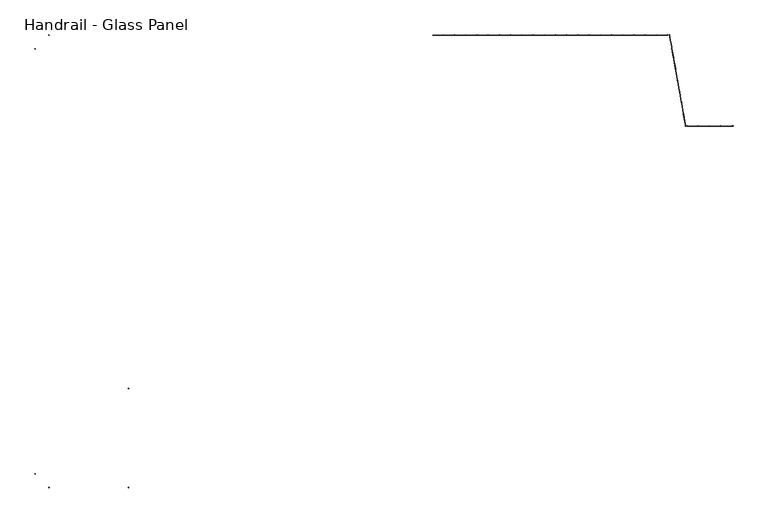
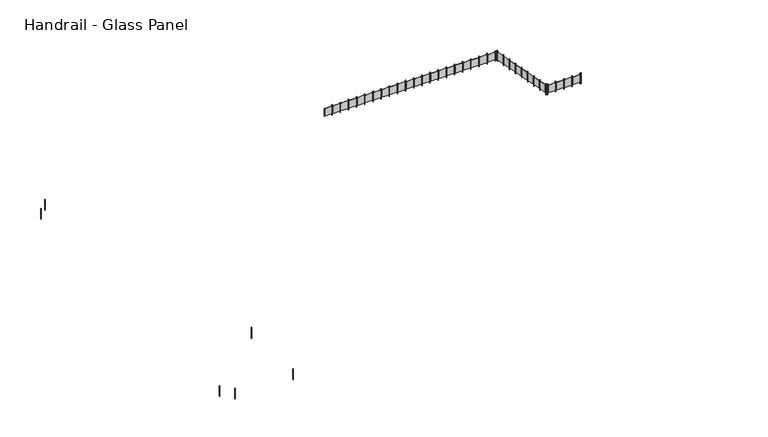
"""IFC4 building model written with IfcOpenShell, lengths in millimetres: railing geometry, Handrail - Glass Panel."""

from ifc_helpers import new_model, si_unit, point, frame, frame_2d, origin, place, context, project, spatial, polyline, circle_curve, trimmed, segment, composite_curve, outline, extrude, source, transform, mapped, element, save


def handrail_glass_panel_4ead3802(model_context):
    return source(origin(), model_context, "Body", "SweptSolid", [
        extrude(outline(polyline([(3415.9280001, 10516.4351347), (2857.1280001, 10516.4351347), (2857.1280001, 10522.7851347), (3415.9280001, 10522.7851347), (3415.9280001, 10516.4351347)])), frame((0.0, 0.0, 8227.0), z_axis=(0.0, 0.0, 1.0), x_axis=(1.0, 0.0, 0.0)), (0.0, 0.0, 1.0), 635.0),
        extrude(outline(polyline([(3463.5530001, 10532.3101347), (3463.5530001, 10513.2601347), (3444.5030001, 10513.2601347), (3444.5030001, 10532.3101347), (3463.5530001, 10532.3101347)])), frame((0.0, 0.0, 8100.0), z_axis=(0.0, 0.0, 1.0), x_axis=(1.0, 0.0, 0.0)), (0.0, 0.0, 1.0), 863.6),
        extrude(outline(polyline([(4050.9280001, 10516.4351347), (3492.1280001, 10516.4351347), (3492.1280001, 10522.7851347), (4050.9280001, 10522.7851347), (4050.9280001, 10516.4351347)])), frame((0.0, 0.0, 8227.0), z_axis=(0.0, 0.0, 1.0), x_axis=(1.0, 0.0, 0.0)), (0.0, 0.0, 1.0), 635.0),
        extrude(outline(polyline([(4098.5530001, 10532.3101347), (4098.5530001, 10513.2601347), (4079.5030001, 10513.2601347), (4079.5030001, 10532.3101347), (4098.5530001, 10532.3101347)])), frame((0.0, 0.0, 8100.0), z_axis=(0.0, 0.0, 1.0), x_axis=(1.0, 0.0, 0.0)), (0.0, 0.0, 1.0), 863.6),
        extrude(outline(polyline([(4685.9280001, 10516.4351347), (4127.1280001, 10516.4351347), (4127.1280001, 10522.7851347), (4685.9280001, 10522.7851347), (4685.9280001, 10516.4351347)])), frame((0.0, 0.0, 8227.0), z_axis=(0.0, 0.0, 1.0), x_axis=(1.0, 0.0, 0.0)), (0.0, 0.0, 1.0), 635.0),
        extrude(outline(polyline([(4733.5530001, 10532.3101347), (4733.5530001, 10513.2601347), (4714.5030001, 10513.2601347), (4714.5030001, 10532.3101347), (4733.5530001, 10532.3101347)])), frame((0.0, 0.0, 8100.0), z_axis=(0.0, 0.0, 1.0), x_axis=(1.0, 0.0, 0.0)), (0.0, 0.0, 1.0), 863.6),
        extrude(outline(polyline([(5320.9280001, 10516.4351347), (4762.1280001, 10516.4351347), (4762.1280001, 10522.7851347), (5320.9280001, 10522.7851347), (5320.9280001, 10516.4351347)])), frame((0.0, 0.0, 8227.0), z_axis=(0.0, 0.0, 1.0), x_axis=(1.0, 0.0, 0.0)), (0.0, 0.0, 1.0), 635.0),
        extrude(outline(polyline([(5368.5530001, 10532.3101347), (5368.5530001, 10513.2601347), (5349.5030001, 10513.2601347), (5349.5030001, 10532.3101347), (5368.5530001, 10532.3101347)])), frame((0.0, 0.0, 8100.0), z_axis=(0.0, 0.0, 1.0), x_axis=(1.0, 0.0, 0.0)), (0.0, 0.0, 1.0), 863.6),
        extrude(outline(polyline([(5955.9280001, 10516.4351347), (5397.1280001, 10516.4351347), (5397.1280001, 10522.7851347), (5955.9280001, 10522.7851347), (5955.9280001, 10516.4351347)])), frame((0.0, 0.0, 8227.0), z_axis=(0.0, 0.0, 1.0), x_axis=(1.0, 0.0, 0.0)), (0.0, 0.0, 1.0), 635.0),
        extrude(outline(polyline([(6003.5530001, 10532.3101347), (6003.5530001, 10513.2601347), (5984.5030001, 10513.2601347), (5984.5030001, 10532.3101347), (6003.5530001, 10532.3101347)])), frame((0.0, 0.0, 8100.0), z_axis=(0.0, 0.0, 1.0), x_axis=(1.0, 0.0, 0.0)), (0.0, 0.0, 1.0), 863.6),
        extrude(outline(polyline([(6590.9280001, 10516.4351347), (6032.1280001, 10516.4351347), (6032.1280001, 10522.7851347), (6590.9280001, 10522.7851347), (6590.9280001, 10516.4351347)])), frame((0.0, 0.0, 8227.0), z_axis=(0.0, 0.0, 1.0), x_axis=(1.0, 0.0, 0.0)), (0.0, 0.0, 1.0), 635.0),
        extrude(outline(polyline([(6638.5530001, 10532.3101347), (6638.5530001, 10513.2601347), (6619.5030001, 10513.2601347), (6619.5030001, 10532.3101347), (6638.5530001, 10532.3101347)])), frame((0.0, 0.0, 8100.0), z_axis=(0.0, 0.0, 1.0), x_axis=(1.0, 0.0, 0.0)), (0.0, 0.0, 1.0), 863.6),
        extrude(outline(polyline([(7225.9280001, 10516.4351347), (6667.1280001, 10516.4351347), (6667.1280001, 10522.7851347), (7225.9280001, 10522.7851347), (7225.9280001, 10516.4351347)])), frame((0.0, 0.0, 8227.0), z_axis=(0.0, 0.0, 1.0), x_axis=(1.0, 0.0, 0.0)), (0.0, 0.0, 1.0), 635.0),
        extrude(outline(polyline([(7273.5530001, 10532.3101347), (7273.5530001, 10513.2601347), (7254.5030001, 10513.2601347), (7254.5030001, 10532.3101347), (7273.5530001, 10532.3101347)])), frame((0.0, 0.0, 8100.0), z_axis=(0.0, 0.0, 1.0), x_axis=(1.0, 0.0, 0.0)), (0.0, 0.0, 1.0), 863.6),
        extrude(outline(polyline([(7860.9280001, 10516.4351347), (7302.1280001, 10516.4351347), (7302.1280001, 10522.7851347), (7860.9280001, 10522.7851347), (7860.9280001, 10516.4351347)])), frame((0.0, 0.0, 8227.0), z_axis=(0.0, 0.0, 1.0), x_axis=(1.0, 0.0, 0.0)), (0.0, 0.0, 1.0), 635.0),
        extrude(outline(polyline([(7908.5530001, 10532.3101347), (7908.5530001, 10513.2601347), (7889.5030001, 10513.2601347), (7889.5030001, 10532.3101347), (7908.5530001, 10532.3101347)])), frame((0.0, 0.0, 8100.0), z_axis=(0.0, 0.0, 1.0), x_axis=(1.0, 0.0, 0.0)), (0.0, 0.0, 1.0), 863.6),
        extrude(outline(polyline([(8495.9280001, 10516.4351347), (7937.1280001, 10516.4351347), (7937.1280001, 10522.7851347), (8495.9280001, 10522.7851347), (8495.9280001, 10516.4351347)])), frame((0.0, 0.0, 8227.0), z_axis=(0.0, 0.0, 1.0), x_axis=(1.0, 0.0, 0.0)), (0.0, 0.0, 1.0), 635.0),
        extrude(outline(polyline([(8543.5530001, 10532.3101347), (8543.5530001, 10513.2601347), (8524.5030001, 10513.2601347), (8524.5030001, 10532.3101347), (8543.5530001, 10532.3101347)])), frame((0.0, 0.0, 8100.0), z_axis=(0.0, 0.0, 1.0), x_axis=(1.0, 0.0, 0.0)), (0.0, 0.0, 1.0), 863.6),
        extrude(outline(polyline([(9130.9280001, 10516.4351347), (8572.1280001, 10516.4351347), (8572.1280001, 10522.7851347), (9130.9280001, 10522.7851347), (9130.9280001, 10516.4351347)])), frame((0.0, 0.0, 8227.0), z_axis=(0.0, 0.0, 1.0), x_axis=(1.0, 0.0, 0.0)), (0.0, 0.0, 1.0), 635.0),
        extrude(outline(polyline([(9178.5530001, 10532.3101347), (9178.5530001, 10513.2601347), (9159.5030001, 10513.2601347), (9159.5030001, 10532.3101347), (9178.5530001, 10532.3101347)])), frame((0.0, 0.0, 8100.0), z_axis=(0.0, 0.0, 1.0), x_axis=(1.0, 0.0, 0.0)), (0.0, 0.0, 1.0), 863.6),
        extrude(outline(polyline([(9765.9280001, 10516.4351347), (9207.1280001, 10516.4351347), (9207.1280001, 10522.7851347), (9765.9280001, 10522.7851347), (9765.9280001, 10516.4351347)])), frame((0.0, 0.0, 8227.0), z_axis=(0.0, 0.0, 1.0), x_axis=(1.0, 0.0, 0.0)), (0.0, 0.0, 1.0), 635.0),
        extrude(outline(polyline([(9813.5530001, 10532.3101347), (9813.5530001, 10513.2601347), (9794.5030001, 10513.2601347), (9794.5030001, 10532.3101347), (9813.5530001, 10532.3101347)])), frame((0.0, 0.0, 8100.0), z_axis=(0.0, 0.0, 1.0), x_axis=(1.0, 0.0, 0.0)), (0.0, 0.0, 1.0), 863.6),
        extrude(outline(polyline([(10400.9280001, 10516.4351347), (9842.1280001, 10516.4351347), (9842.1280001, 10522.7851347), (10400.9280001, 10522.7851347), (10400.9280001, 10516.4351347)])), frame((0.0, 0.0, 8227.0), z_axis=(0.0, 0.0, 1.0), x_axis=(1.0, 0.0, 0.0)), (0.0, 0.0, 1.0), 635.0),
        extrude(outline(polyline([(10448.5530001, 10532.3101347), (10448.5530001, 10513.2601347), (10429.5030001, 10513.2601347), (10429.5030001, 10532.3101347), (10448.5530001, 10532.3101347)])), frame((0.0, 0.0, 8100.0), z_axis=(0.0, 0.0, 1.0), x_axis=(1.0, 0.0, 0.0)), (0.0, 0.0, 1.0), 863.6),
        extrude(outline(polyline([(11035.9280001, 10516.4351347), (10477.1280001, 10516.4351347), (10477.1280001, 10522.7851347), (11035.9280001, 10522.7851347), (11035.9280001, 10516.4351347)])), frame((0.0, 0.0, 8227.0), z_axis=(0.0, 0.0, 1.0), x_axis=(1.0, 0.0, 0.0)), (0.0, 0.0, 1.0), 635.0),
        extrude(outline(polyline([(11083.5530001, 10532.3101347), (11083.5530001, 10513.2601347), (11064.5030001, 10513.2601347), (11064.5030001, 10532.3101347), (11083.5530001, 10532.3101347)])), frame((0.0, 0.0, 8100.0), z_axis=(0.0, 0.0, 1.0), x_axis=(1.0, 0.0, 0.0)), (0.0, 0.0, 1.0), 863.6),
        extrude(outline(polyline([(11670.9280001, 10516.4351347), (11112.1280001, 10516.4351347), (11112.1280001, 10522.7851347), (11670.9280001, 10522.7851347), (11670.9280001, 10516.4351347)])), frame((0.0, 0.0, 8227.0), z_axis=(0.0, 0.0, 1.0), x_axis=(1.0, 0.0, 0.0)), (0.0, 0.0, 1.0), 635.0),
        extrude(outline(polyline([(11718.5530001, 10532.3101347), (11718.5530001, 10513.2601347), (11699.5030001, 10513.2601347), (11699.5030001, 10532.3101347), (11718.5530001, 10532.3101347)])), frame((0.0, 0.0, 8100.0), z_axis=(0.0, 0.0, 1.0), x_axis=(1.0, 0.0, 0.0)), (0.0, 0.0, 1.0), 863.6),
        extrude(outline(polyline([(12305.9280001, 10516.4351347), (11747.1280001, 10516.4351347), (11747.1280001, 10522.7851347), (12305.9280001, 10522.7851347), (12305.9280001, 10516.4351347)])), frame((0.0, 0.0, 8227.0), z_axis=(0.0, 0.0, 1.0), x_axis=(1.0, 0.0, 0.0)), (0.0, 0.0, 1.0), 635.0),
        extrude(outline(polyline([(12353.5530001, 10532.3101347), (12353.5530001, 10513.2601347), (12334.5030001, 10513.2601347), (12334.5030001, 10532.3101347), (12353.5530001, 10532.3101347)])), frame((0.0, 0.0, 8100.0), z_axis=(0.0, 0.0, 1.0), x_axis=(1.0, 0.0, 0.0)), (0.0, 0.0, 1.0), 863.6),
        extrude(outline(polyline([(12940.9280001, 10516.4351347), (12382.1280001, 10516.4351347), (12382.1280001, 10522.7851347), (12940.9280001, 10522.7851347), (12940.9280001, 10516.4351347)])), frame((0.0, 0.0, 8227.0), z_axis=(0.0, 0.0, 1.0), x_axis=(1.0, 0.0, 0.0)), (0.0, 0.0, 1.0), 635.0),
        extrude(outline(polyline([(12988.5530001, 10532.3101347), (12988.5530001, 10513.2601347), (12969.5030001, 10513.2601347), (12969.5030001, 10532.3101347), (12988.5530001, 10532.3101347)])), frame((0.0, 0.0, 8100.0), z_axis=(0.0, 0.0, 1.0), x_axis=(1.0, 0.0, 0.0)), (0.0, 0.0, 1.0), 863.6),
        extrude(outline(polyline([(13575.9280001, 10516.4351347), (13017.1280001, 10516.4351347), (13017.1280001, 10522.7851347), (13575.9280001, 10522.7851347), (13575.9280001, 10516.4351347)])), frame((0.0, 0.0, 8227.0), z_axis=(0.0, 0.0, 1.0), x_axis=(1.0, 0.0, 0.0)), (0.0, 0.0, 1.0), 635.0),
        extrude(outline(polyline([(13623.5530001, 10532.3101347), (13623.5530001, 10513.2601347), (13604.5030001, 10513.2601347), (13604.5030001, 10532.3101347), (13623.5530001, 10532.3101347)])), frame((0.0, 0.0, 8100.0), z_axis=(0.0, 0.0, 1.0), x_axis=(1.0, 0.0, 0.0)), (0.0, 0.0, 1.0), 863.6),
        extrude(outline(polyline([(14210.9280001, 10516.4351347), (13652.1280001, 10516.4351347), (13652.1280001, 10522.7851347), (14210.9280001, 10522.7851347), (14210.9280001, 10516.4351347)])), frame((0.0, 0.0, 8227.0), z_axis=(0.0, 0.0, 1.0), x_axis=(1.0, 0.0, 0.0)), (0.0, 0.0, 1.0), 635.0),
        extrude(outline(polyline([(14258.5530001, 10532.3101347), (14258.5530001, 10513.2601347), (14239.5030001, 10513.2601347), (14239.5030001, 10532.3101347), (14258.5530001, 10532.3101347)])), frame((0.0, 0.0, 8100.0), z_axis=(0.0, 0.0, 1.0), x_axis=(1.0, 0.0, 0.0)), (0.0, 0.0, 1.0), 863.6),
        extrude(outline(polyline([(14845.9280001, 10516.4351347), (14287.1280001, 10516.4351347), (14287.1280001, 10522.7851347), (14845.9280001, 10522.7851347), (14845.9280001, 10516.4351347)])), frame((0.0, 0.0, 8227.0), z_axis=(0.0, 0.0, 1.0), x_axis=(1.0, 0.0, 0.0)), (0.0, 0.0, 1.0), 635.0),
        extrude(outline(polyline([(14893.5530001, 10532.3101347), (14893.5530001, 10513.2601347), (14874.5030001, 10513.2601347), (14874.5030001, 10532.3101347), (14893.5530001, 10532.3101347)])), frame((0.0, 0.0, 8100.0), z_axis=(0.0, 0.0, 1.0), x_axis=(1.0, 0.0, 0.0)), (0.0, 0.0, 1.0), 863.6),
        extrude(outline(polyline([(15480.9280001, 10516.4351347), (14922.1280001, 10516.4351347), (14922.1280001, 10522.7851347), (15480.9280001, 10522.7851347), (15480.9280001, 10516.4351347)])), frame((0.0, 0.0, 8227.0), z_axis=(0.0, 0.0, 1.0), x_axis=(1.0, 0.0, 0.0)), (0.0, 0.0, 1.0), 635.0),
        extrude(outline(polyline([(15528.5530001, 10532.3101347), (15528.5530001, 10513.2601347), (15509.5030001, 10513.2601347), (15509.5030001, 10532.3101347), (15528.5530001, 10532.3101347)])), frame((0.0, 0.0, 8100.0), z_axis=(0.0, 0.0, 1.0), x_axis=(1.0, 0.0, 0.0)), (0.0, 0.0, 1.0), 863.6),
        extrude(outline(polyline([(16115.9280001, 10516.4351347), (15557.1280001, 10516.4351347), (15557.1280001, 10522.7851347), (16115.9280001, 10522.7851347), (16115.9280001, 10516.4351347)])), frame((0.0, 0.0, 8227.0), z_axis=(0.0, 0.0, 1.0), x_axis=(1.0, 0.0, 0.0)), (0.0, 0.0, 1.0), 635.0),
        extrude(outline(polyline([(16163.5530001, 10532.3101347), (16163.5530001, 10513.2601347), (16144.5030001, 10513.2601347), (16144.5030001, 10532.3101347), (16163.5530001, 10532.3101347)])), frame((0.0, 0.0, 8100.0), z_axis=(0.0, 0.0, 1.0), x_axis=(1.0, 0.0, 0.0)), (0.0, 0.0, 1.0), 863.6),
        extrude(outline(polyline([(16294.6524869, 10441.4705324), (16275.8918992, 10438.1625346), (16272.5839014, 10456.9231223), (16291.3444891, 10460.2311201), (16294.6524869, 10441.4705324)])), frame((0.0, 0.0, 8100.0), z_axis=(0.0, 0.0, 1.0), x_axis=(1.0, 0.0, 0.0)), (0.0, 0.0, 1.0), 863.6),
        extrude(outline(polyline([(16381.0152622, 9860.2624137), (16283.9806605, 10410.5729861), (16290.2341897, 10411.675652), (16387.2687914, 9861.3650796), (16381.0152622, 9860.2624137)])), frame((0.0, 0.0, 8227.0), z_axis=(0.0, 0.0, 1.0), x_axis=(1.0, 0.0, 0.0)), (0.0, 0.0, 1.0), 635.0),
        extrude(outline(polyline([(16404.9190797, 9816.1176093), (16386.158492, 9812.8096115), (16382.8504942, 9831.5701992), (16401.6110819, 9834.878197), (16404.9190797, 9816.1176093)])), frame((0.0, 0.0, 8100.0), z_axis=(0.0, 0.0, 1.0), x_axis=(1.0, 0.0, 0.0)), (0.0, 0.0, 1.0), 863.6),
        extrude(outline(polyline([(16491.281855, 9234.9094905), (16394.2472533, 9785.2200629), (16400.5007825, 9786.3227288), (16497.5353842, 9236.0121564), (16491.281855, 9234.9094905)])), frame((0.0, 0.0, 8227.0), z_axis=(0.0, 0.0, 1.0), x_axis=(1.0, 0.0, 0.0)), (0.0, 0.0, 1.0), 635.0),
        extrude(outline(polyline([(16515.1856725, 9190.7646861), (16496.4250848, 9187.4566883), (16493.117087, 9206.217276), (16511.8776747, 9209.5252738), (16515.1856725, 9190.7646861)])), frame((0.0, 0.0, 8100.0), z_axis=(0.0, 0.0, 1.0), x_axis=(1.0, 0.0, 0.0)), (0.0, 0.0, 1.0), 863.6),
        extrude(outline(polyline([(16601.5484478, 8609.5565674), (16504.5138461, 9159.8671397), (16510.7673753, 9160.9698057), (16607.801977, 8610.6592333), (16601.5484478, 8609.5565674)])), frame((0.0, 0.0, 8227.0), z_axis=(0.0, 0.0, 1.0), x_axis=(1.0, 0.0, 0.0)), (0.0, 0.0, 1.0), 635.0),
        extrude(outline(polyline([(16625.4522653, 8565.4117629), (16606.6916776, 8562.1037652), (16603.3836799, 8580.8643528), (16622.1442676, 8584.1723506), (16625.4522653, 8565.4117629)])), frame((0.0, 0.0, 8100.0), z_axis=(0.0, 0.0, 1.0), x_axis=(1.0, 0.0, 0.0)), (0.0, 0.0, 1.0), 863.6),
        extrude(outline(polyline([(16711.8150406, 7984.2036442), (16614.7804389, 8534.5142166), (16621.0339682, 8535.6168825), (16718.0685698, 7985.3063101), (16711.8150406, 7984.2036442)])), frame((0.0, 0.0, 8227.0), z_axis=(0.0, 0.0, 1.0), x_axis=(1.0, 0.0, 0.0)), (0.0, 0.0, 1.0), 635.0),
        extrude(outline(polyline([(16735.7188582, 7940.0588398), (16716.9582705, 7936.750842), (16713.6502727, 7955.5114297), (16732.4108604, 7958.8194275), (16735.7188582, 7940.0588398)])), frame((0.0, 0.0, 8100.0), z_axis=(0.0, 0.0, 1.0), x_axis=(1.0, 0.0, 0.0)), (0.0, 0.0, 1.0), 863.6),
        extrude(outline(polyline([(16822.0816334, 7358.850721), (16725.0470318, 7909.1612934), (16731.300561, 7910.2639593), (16828.3351627, 7359.953387), (16822.0816334, 7358.850721)])), frame((0.0, 0.0, 8227.0), z_axis=(0.0, 0.0, 1.0), x_axis=(1.0, 0.0, 0.0)), (0.0, 0.0, 1.0), 635.0),
        extrude(outline(polyline([(16845.985451, 7314.7059166), (16827.2248633, 7311.3979188), (16823.9168655, 7330.1585065), (16842.6774532, 7333.4665043), (16845.985451, 7314.7059166)])), frame((0.0, 0.0, 8100.0), z_axis=(0.0, 0.0, 1.0), x_axis=(1.0, 0.0, 0.0)), (0.0, 0.0, 1.0), 863.6),
        extrude(outline(polyline([(16932.3482263, 6733.4977979), (16835.3136246, 7283.8083703), (16841.5671538, 7284.9110362), (16938.6017555, 6734.6004638), (16932.3482263, 6733.4977979)])), frame((0.0, 0.0, 8227.0), z_axis=(0.0, 0.0, 1.0), x_axis=(1.0, 0.0, 0.0)), (0.0, 0.0, 1.0), 635.0),
        extrude(outline(polyline([(16956.2520438, 6689.3529935), (16937.4914561, 6686.0449957), (16934.1834583, 6704.8055834), (16952.944046, 6708.1135811), (16956.2520438, 6689.3529935)])), frame((0.0, 0.0, 8100.0), z_axis=(0.0, 0.0, 1.0), x_axis=(1.0, 0.0, 0.0)), (0.0, 0.0, 1.0), 863.6),
        extrude(outline(polyline([(17042.6148191, 6108.1448747), (16945.5802174, 6658.4554471), (16951.8337466, 6659.558113), (17048.8683483, 6109.2475406), (17042.6148191, 6108.1448747)])), frame((0.0, 0.0, 8227.0), z_axis=(0.0, 0.0, 1.0), x_axis=(1.0, 0.0, 0.0)), (0.0, 0.0, 1.0), 635.0),
        extrude(outline(polyline([(17066.5186366, 6064.0000703), (17047.7580489, 6060.6920725), (17044.4500511, 6079.4526602), (17063.2106388, 6082.760658), (17066.5186366, 6064.0000703)])), frame((0.0, 0.0, 8100.0), z_axis=(0.0, 0.0, 1.0), x_axis=(1.0, 0.0, 0.0)), (0.0, 0.0, 1.0), 863.6),
        extrude(outline(polyline([(17152.8814119, 5482.7919515), (17055.8468102, 6033.1025239), (17062.1003394, 6034.2051899), (17159.1349411, 5483.8946175), (17152.8814119, 5482.7919515)])), frame((0.0, 0.0, 8227.0), z_axis=(0.0, 0.0, 1.0), x_axis=(1.0, 0.0, 0.0)), (0.0, 0.0, 1.0), 635.0),
        extrude(outline(polyline([(17176.7852294, 5438.6471471), (17158.0246417, 5435.3391493), (17154.7166439, 5454.099737), (17173.4772316, 5457.4077348), (17176.7852294, 5438.6471471)])), frame((0.0, 0.0, 8100.0), z_axis=(0.0, 0.0, 1.0), x_axis=(1.0, 0.0, 0.0)), (0.0, 0.0, 1.0), 863.6),
        extrude(outline(polyline([(17257.5949754, 5382.3101347), (17257.5949754, 5363.2601347), (17238.5449754, 5363.2601347), (17238.5449754, 5382.3101347), (17257.5949754, 5382.3101347)])), frame((0.0, 0.0, 8100.0), z_axis=(0.0, 0.0, 1.0), x_axis=(1.0, 0.0, 0.0)), (0.0, 0.0, 1.0), 863.6),
        extrude(outline(polyline([(17844.9699754, 5366.4351347), (17286.1699754, 5366.4351347), (17286.1699754, 5372.7851347), (17844.9699754, 5372.7851347), (17844.9699754, 5366.4351347)])), frame((0.0, 0.0, 8227.0), z_axis=(0.0, 0.0, 1.0), x_axis=(1.0, 0.0, 0.0)), (0.0, 0.0, 1.0), 635.0),
        extrude(outline(polyline([(17892.5949754, 5382.3101347), (17892.5949754, 5363.2601347), (17873.5449754, 5363.2601347), (17873.5449754, 5382.3101347), (17892.5949754, 5382.3101347)])), frame((0.0, 0.0, 8100.0), z_axis=(0.0, 0.0, 1.0), x_axis=(1.0, 0.0, 0.0)), (0.0, 0.0, 1.0), 863.6),
        extrude(outline(polyline([(18479.9699754, 5366.4351347), (17921.1699754, 5366.4351347), (17921.1699754, 5372.7851347), (18479.9699754, 5372.7851347), (18479.9699754, 5366.4351347)])), frame((0.0, 0.0, 8227.0), z_axis=(0.0, 0.0, 1.0), x_axis=(1.0, 0.0, 0.0)), (0.0, 0.0, 1.0), 635.0),
        extrude(outline(polyline([(18527.5949754, 5382.3101347), (18527.5949754, 5363.2601347), (18508.5449754, 5363.2601347), (18508.5449754, 5382.3101347), (18527.5949754, 5382.3101347)])), frame((0.0, 0.0, 8100.0), z_axis=(0.0, 0.0, 1.0), x_axis=(1.0, 0.0, 0.0)), (0.0, 0.0, 1.0), 863.6),
        extrude(outline(polyline([(19114.9699754, 5366.4351347), (18556.1699754, 5366.4351347), (18556.1699754, 5372.7851347), (19114.9699754, 5372.7851347), (19114.9699754, 5366.4351347)])), frame((0.0, 0.0, 8227.0), z_axis=(0.0, 0.0, 1.0), x_axis=(1.0, 0.0, 0.0)), (0.0, 0.0, 1.0), 635.0),
        extrude(outline(polyline([(19162.5949754, 5382.3101347), (19162.5949754, 5363.2601347), (19143.5449754, 5363.2601347), (19143.5449754, 5382.3101347), (19162.5949754, 5382.3101347)])), frame((0.0, 0.0, 8100.0), z_axis=(0.0, 0.0, 1.0), x_axis=(1.0, 0.0, 0.0)), (0.0, 0.0, 1.0), 863.6),
        extrude(outline(polyline([(19749.9699754, 5366.4351347), (19191.1699754, 5366.4351347), (19191.1699754, 5372.7851347), (19749.9699754, 5372.7851347), (19749.9699754, 5366.4351347)])), frame((0.0, 0.0, 8227.0), z_axis=(0.0, 0.0, 1.0), x_axis=(1.0, 0.0, 0.0)), (0.0, 0.0, 1.0), 635.0),
        extrude(outline(polyline([(19797.5949754, 5382.3101347), (19797.5949754, 5363.2601347), (19778.5449754, 5363.2601347), (19778.5449754, 5382.3101347), (19797.5949754, 5382.3101347)])), frame((0.0, 0.0, 8100.0), z_axis=(0.0, 0.0, 1.0), x_axis=(1.0, 0.0, 0.0)), (0.0, 0.0, 1.0), 863.6),
        extrude(outline(composite_curve([segment(trimmed(circle_curve(frame_2d((-14372.1865899, -15098.0148653)), 12.7), [point((-14372.1865899, -15085.3148653))], [point((-14372.1865899, -15110.7148653))], False, "CARTESIAN"), True, "CONTINUOUS"), segment(trimmed(circle_curve(frame_2d((-14372.1865899, -15098.0148653)), 12.7), [point((-14372.1865899, -15110.7148653))], [point((-14372.1865899, -15085.3148653))], False, "CARTESIAN"), True, "CONTINUOUS")], self_intersect=False)), frame((0.0, 0.0, 8100.0), z_axis=(0.0, 0.0, 1.0), x_axis=(1.0, 0.0, 0.0)), (0.0, 0.0, 1.0), 863.6),
        extrude(outline(composite_curve([segment(trimmed(circle_curve(frame_2d((-18887.5865899, -15098.0148653)), 12.7), [point((-18887.5865899, -15085.3148653))], [point((-18887.5865899, -15110.7148653))], False, "CARTESIAN"), True, "CONTINUOUS"), segment(trimmed(circle_curve(frame_2d((-18887.5865899, -15098.0148653)), 12.7), [point((-18887.5865899, -15110.7148653))], [point((-18887.5865899, -15085.3148653))], False, "CARTESIAN"), True, "CONTINUOUS")], self_intersect=False)), frame((0.0, 0.0, 8100.0), z_axis=(0.0, 0.0, 1.0), x_axis=(1.0, 0.0, 0.0)), (0.0, 0.0, 1.0), 863.6),
        extrude(outline(composite_curve([segment(trimmed(circle_curve(frame_2d((-19662.9865899, -14322.6148653)), 12.7), [point((-19650.2865899, -14322.6148653))], [point((-19675.6865899, -14322.6148653))], False, "CARTESIAN"), True, "CONTINUOUS"), segment(trimmed(circle_curve(frame_2d((-19662.9865899, -14322.6148653)), 12.7), [point((-19675.6865899, -14322.6148653))], [point((-19650.2865899, -14322.6148653))], False, "CARTESIAN"), True, "CONTINUOUS")], self_intersect=False)), frame((0.0, 0.0, 8100.0), z_axis=(0.0, 0.0, 1.0), x_axis=(1.0, 0.0, 0.0)), (0.0, 0.0, 1.0), 863.6),
        extrude(outline(composite_curve([segment(trimmed(circle_curve(frame_2d((-19662.9865899, 9747.3851347)), 12.7), [point((-19650.2865899, 9747.3851347))], [point((-19675.6865899, 9747.3851347))], False, "CARTESIAN"), True, "CONTINUOUS"), segment(trimmed(circle_curve(frame_2d((-19662.9865899, 9747.3851347)), 12.7), [point((-19675.6865899, 9747.3851347))], [point((-19650.2865899, 9747.3851347))], False, "CARTESIAN"), True, "CONTINUOUS")], self_intersect=False)), frame((0.0, 0.0, 8100.0), z_axis=(0.0, 0.0, 1.0), x_axis=(1.0, 0.0, 0.0)), (0.0, 0.0, 1.0), 863.6),
        extrude(outline(composite_curve([segment(trimmed(circle_curve(frame_2d((-18887.5865899, 10522.7851347)), 12.7), [point((-18887.5865899, 10510.0851347))], [point((-18887.5865899, 10535.4851347))], False, "CARTESIAN"), True, "CONTINUOUS"), segment(trimmed(circle_curve(frame_2d((-18887.5865899, 10522.7851347)), 12.7), [point((-18887.5865899, 10535.4851347))], [point((-18887.5865899, 10510.0851347))], False, "CARTESIAN"), True, "CONTINUOUS")], self_intersect=False)), frame((0.0, 0.0, 8100.0), z_axis=(0.0, 0.0, 1.0), x_axis=(1.0, 0.0, 0.0)), (0.0, 0.0, 1.0), 863.6),
        extrude(outline(composite_curve([segment(trimmed(circle_curve(frame_2d((16270.6425901, 10522.7851347)), 12.7), [point((16258.1355316, 10520.5798029))], [point((16283.1496486, 10524.9904666))], False, "CARTESIAN"), True, "CONTINUOUS"), segment(trimmed(circle_curve(frame_2d((16270.6425901, 10522.7851347)), 12.7), [point((16283.1496486, 10524.9904666))], [point((16258.1355316, 10520.5798029))], False, "CARTESIAN"), True, "CONTINUOUS")], self_intersect=False)), frame((0.0, 0.0, 8100.0), z_axis=(0.0, 0.0, 1.0), x_axis=(1.0, 0.0, 0.0)), (0.0, 0.0, 1.0), 863.6),
        extrude(outline(composite_curve([segment(trimmed(circle_curve(frame_2d((17178.7265407, 5372.7851347)), 12.7), [point((17178.7265407, 5360.0851347))], [point((17178.7265407, 5385.4851347))], False, "CARTESIAN"), True, "CONTINUOUS"), segment(trimmed(circle_curve(frame_2d((17178.7265407, 5372.7851347)), 12.7), [point((17178.7265407, 5385.4851347))], [point((17178.7265407, 5360.0851347))], False, "CARTESIAN"), True, "CONTINUOUS")], self_intersect=False)), frame((0.0, 0.0, 8100.0), z_axis=(0.0, 0.0, 1.0), x_axis=(1.0, 0.0, 0.0)), (0.0, 0.0, 1.0), 863.6),
        extrude(outline(composite_curve([segment(trimmed(circle_curve(frame_2d((-14372.1865899, -9482.1398653)), 12.7), [point((-14384.8865899, -9482.1398653))], [point((-14359.4865899, -9482.1398653))], False, "CARTESIAN"), True, "CONTINUOUS"), segment(trimmed(circle_curve(frame_2d((-14372.1865899, -9482.1398653)), 12.7), [point((-14359.4865899, -9482.1398653))], [point((-14384.8865899, -9482.1398653))], False, "CARTESIAN"), True, "CONTINUOUS")], self_intersect=False)), frame((0.0, 0.0, 8100.0), z_axis=(0.0, 0.0, 1.0), x_axis=(1.0, 0.0, 0.0)), (0.0, 0.0, 1.0), 863.6),
        extrude(outline(polyline([(19866.9384101, 5391.8351347), (19866.9384101, 5353.7351347), (19828.8384101, 5353.7351347), (19828.8384101, 5391.8351347), (19866.9384101, 5391.8351347)])), frame((0.0, 0.0, 8100.0), z_axis=(0.0, 0.0, 1.0), x_axis=(1.0, 0.0, 0.0)), (0.0, 0.0, 1.0), 863.6),
    ])


if __name__ == "__main__":
    model = new_model("IFC4")
    model_context = context("Model", 3, world=origin())
    ifc_project = project(units=[si_unit("LENGTHUNIT", "METRE", prefix="MILLI")], contexts=[model_context])
    site = spatial("IfcSite", under=ifc_project)
    building = spatial("IfcBuilding", under=site)
    placement = place(None, origin())
    handrail_glass_panel_shape = handrail_glass_panel_4ead3802(model_context)
    element("IfcRailing", 1, ObjectType="Handrail - Glass Panel", at=placement, inside=building, context=model_context, shape_type="MappedRepresentation", body=[
        mapped(handrail_glass_panel_shape, transform((0.0, 0.0, 0.0), x_axis=(1.0, 0.0, 0.0), y_axis=(0.0, 1.0, 0.0), z_axis=(0.0, 0.0, 1.0))),
    ])
    save(model, "model.ifc")
